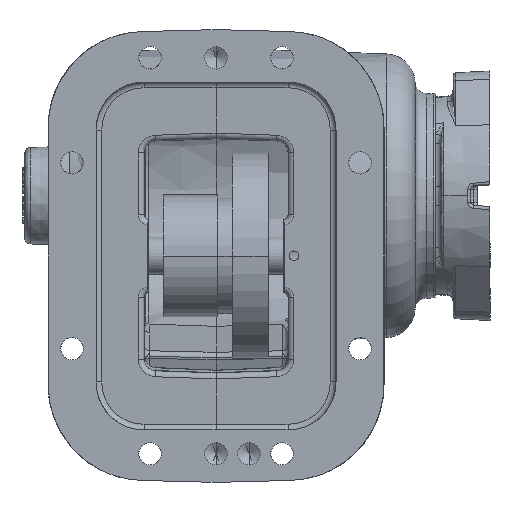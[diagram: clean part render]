
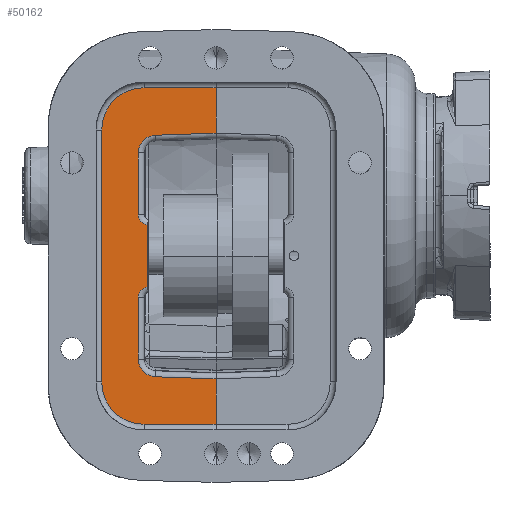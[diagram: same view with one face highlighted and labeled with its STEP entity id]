
A CAD part, front view. The second image highlights one B-rep face of the part: STEP entity #50162.
In plain terms, the highlighted planar face has unit normal (0, -1, 0).
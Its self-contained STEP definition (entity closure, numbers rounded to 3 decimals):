
#12150 = AXIS2_PLACEMENT_3D ( 'NONE', #93692, #93693, #93694 ) ;
#12158 = AXIS2_PLACEMENT_3D ( 'NONE', #93724, #93725, #93726 ) ;
#12171 = AXIS2_PLACEMENT_3D ( 'NONE', #93767, #93768, #93769 ) ;
#12178 = AXIS2_PLACEMENT_3D ( 'NONE', #93800, #93801, #93802 ) ;
#12203 = AXIS2_PLACEMENT_3D ( 'NONE', #96707, #96708, #96709 ) ;
#12209 = AXIS2_PLACEMENT_3D ( 'NONE', #96747, #96748, #96749 ) ;
#14907 = CARTESIAN_POINT ( 'NONE',  ( -88.773, -151.106, 55.209 ) ) ;
#14922 = PLANE ( 'NONE',  #58737 ) ;
#14926 = DIRECTION ( 'NONE',  ( 0., 1., 0. ) ) ;
#14927 = DIRECTION ( 'NONE',  ( 0., 0., 1. ) ) ;
#20942 = FACE_OUTER_BOUND ( 'NONE', #29150, .T. ) ;
#29150 = EDGE_LOOP ( 'NONE', ( #82029, #82031, #82033, #82035, #82038, #82040, #82042, #82043, #82044, #82045, #82048, #82049, #82051, #82053, #82054, #82055 ) ) ;
#38437 = LINE ( 'NONE', #103464, #38440 ) ;
#38439 = LINE ( 'NONE', #103467, #38442 ) ;
#38440 = VECTOR ( 'NONE', #103466, 1000. ) ;
#38442 = VECTOR ( 'NONE', #103470, 1000. ) ;
#50162 = ADVANCED_FACE ( 'NONE', ( #20942 ), #14922, .F. ) ;
#55931 = VERTEX_POINT ( 'NONE', #65696 ) ;
#55939 = VERTEX_POINT ( 'NONE', #65709 ) ;
#55946 = VERTEX_POINT ( 'NONE', #65722 ) ;
#55952 = VERTEX_POINT ( 'NONE', #65725 ) ;
#55956 = VERTEX_POINT ( 'NONE', #65736 ) ;
#55958 = VERTEX_POINT ( 'NONE', #65739 ) ;
#56003 = VERTEX_POINT ( 'NONE', #66003 ) ;
#56018 = VERTEX_POINT ( 'NONE', #63815 ) ;
#56020 = VERTEX_POINT ( 'NONE', #63821 ) ;
#56025 = VERTEX_POINT ( 'NONE', #64118 ) ;
#56029 = VERTEX_POINT ( 'NONE', #64124 ) ;
#56035 = VERTEX_POINT ( 'NONE', #64236 ) ;
#56050 = VERTEX_POINT ( 'NONE', #64429 ) ;
#56051 = VERTEX_POINT ( 'NONE', #64432 ) ;
#56053 = VERTEX_POINT ( 'NONE', #64434 ) ;
#56057 = VERTEX_POINT ( 'NONE', #64437 ) ;
#58737 = AXIS2_PLACEMENT_3D ( 'NONE', #14907, #14926, #14927 ) ;
#58890 = LINE ( 'NONE', #93674, #58894 ) ;
#58894 = VECTOR ( 'NONE', #93671, 1000. ) ;
#58898 = CIRCLE ( 'NONE', #12150, 9.398 ) ;
#58904 = LINE ( 'NONE', #93705, #58910 ) ;
#58910 = VECTOR ( 'NONE', #93703, 1000. ) ;
#58915 = CIRCLE ( 'NONE', #12158, 6.096 ) ;
#58923 = LINE ( 'NONE', #93741, #58926 ) ;
#58926 = VECTOR ( 'NONE', #93737, 1000. ) ;
#58930 = CIRCLE ( 'NONE', #12171, 6.096 ) ;
#58936 = LINE ( 'NONE', #93779, #58942 ) ;
#58942 = VECTOR ( 'NONE', #93776, 1000. ) ;
#58946 = CIRCLE ( 'NONE', #12178, 9.398 ) ;
#58951 = LINE ( 'NONE', #93805, #58958 ) ;
#58958 = VECTOR ( 'NONE', #93819, 1000. ) ;
#59000 = LINE ( 'NONE', #96710, #59005 ) ;
#59001 = CIRCLE ( 'NONE', #12203, 22.352 ) ;
#59005 = VECTOR ( 'NONE', #96706, 1000. ) ;
#59008 = LINE ( 'NONE', #96721, #59012 ) ;
#59012 = VECTOR ( 'NONE', #96727, 1000. ) ;
#59018 = CIRCLE ( 'NONE', #12209, 22.352 ) ;
#59024 = LINE ( 'NONE', #96763, #59028 ) ;
#59028 = VECTOR ( 'NONE', #96771, 1000. ) ;
#63815 = CARTESIAN_POINT ( 'NONE',  ( -31.951, -151.106, 1.64 ) ) ;
#63821 = CARTESIAN_POINT ( 'NONE',  ( -41.021, -151.106, -40.104 ) ) ;
#64118 = CARTESIAN_POINT ( 'NONE',  ( -41.021, -151.106, -7.753 ) ) ;
#64124 = CARTESIAN_POINT ( 'NONE',  ( -36.195, -151.106, -46.066 ) ) ;
#64236 = CARTESIAN_POINT ( 'NONE',  ( -36.195, -151.106, -78.466 ) ) ;
#64429 = CARTESIAN_POINT ( 'NONE',  ( -41.021, -151.106, -84.428 ) ) ;
#64432 = CARTESIAN_POINT ( 'NONE',  ( -41.021, -151.106, -116.779 ) ) ;
#64434 = CARTESIAN_POINT ( 'NONE',  ( 0.127, -151.106, -127.292 ) ) ;
#64437 = CARTESIAN_POINT ( 'NONE',  ( -31.951, -151.106, -126.172 ) ) ;
#65696 = CARTESIAN_POINT ( 'NONE',  ( 0.127, -151.106, 26.761 ) ) ;
#65709 = CARTESIAN_POINT ( 'NONE',  ( -37.973, -151.106, 26.761 ) ) ;
#65722 = CARTESIAN_POINT ( 'NONE',  ( -60.325, -151.106, 4.409 ) ) ;
#65725 = CARTESIAN_POINT ( 'NONE',  ( -37.973, -151.106, -151.293 ) ) ;
#65736 = CARTESIAN_POINT ( 'NONE',  ( 0.127, -151.106, -151.293 ) ) ;
#65739 = CARTESIAN_POINT ( 'NONE',  ( -60.325, -151.106, -128.941 ) ) ;
#66003 = CARTESIAN_POINT ( 'NONE',  ( 0.127, -151.106, 2.76 ) ) ;
#82029 = ORIENTED_EDGE ( 'NONE', *, *, #105737, .F. ) ;
#82031 = ORIENTED_EDGE ( 'NONE', *, *, #87829, .T. ) ;
#82033 = ORIENTED_EDGE ( 'NONE', *, *, #87835, .T. ) ;
#82035 = ORIENTED_EDGE ( 'NONE', *, *, #87841, .T. ) ;
#82038 = ORIENTED_EDGE ( 'NONE', *, *, #87847, .T. ) ;
#82040 = ORIENTED_EDGE ( 'NONE', *, *, #87854, .T. ) ;
#82042 = ORIENTED_EDGE ( 'NONE', *, *, #87862, .T. ) ;
#82043 = ORIENTED_EDGE ( 'NONE', *, *, #87867, .T. ) ;
#82044 = ORIENTED_EDGE ( 'NONE', *, *, #87873, .T. ) ;
#82045 = ORIENTED_EDGE ( 'NONE', *, *, #87879, .T. ) ;
#82048 = ORIENTED_EDGE ( 'NONE', *, *, #105738, .F. ) ;
#82049 = ORIENTED_EDGE ( 'NONE', *, *, #87960, .T. ) ;
#82051 = ORIENTED_EDGE ( 'NONE', *, *, #87954, .T. ) ;
#82053 = ORIENTED_EDGE ( 'NONE', *, *, #87948, .T. ) ;
#82054 = ORIENTED_EDGE ( 'NONE', *, *, #87942, .T. ) ;
#82055 = ORIENTED_EDGE ( 'NONE', *, *, #87944, .T. ) ;
#87829 = EDGE_CURVE ( 'NONE', #56053, #56057, #58890, .T. ) ;
#87835 = EDGE_CURVE ( 'NONE', #56057, #56051, #58898, .T. ) ;
#87841 = EDGE_CURVE ( 'NONE', #56051, #56050, #58904, .T. ) ;
#87847 = EDGE_CURVE ( 'NONE', #56050, #56035, #58915, .T. ) ;
#87854 = EDGE_CURVE ( 'NONE', #56035, #56029, #58923, .T. ) ;
#87862 = EDGE_CURVE ( 'NONE', #56029, #56020, #58930, .T. ) ;
#87867 = EDGE_CURVE ( 'NONE', #56020, #56025, #58936, .T. ) ;
#87873 = EDGE_CURVE ( 'NONE', #56025, #56018, #58946, .T. ) ;
#87879 = EDGE_CURVE ( 'NONE', #56018, #56003, #58951, .T. ) ;
#87942 = EDGE_CURVE ( 'NONE', #55958, #55952, #59001, .T. ) ;
#87944 = EDGE_CURVE ( 'NONE', #55952, #55956, #59000, .T. ) ;
#87948 = EDGE_CURVE ( 'NONE', #55946, #55958, #59008, .T. ) ;
#87954 = EDGE_CURVE ( 'NONE', #55939, #55946, #59018, .T. ) ;
#87960 = EDGE_CURVE ( 'NONE', #55931, #55939, #59024, .T. ) ;
#93671 = DIRECTION ( 'NONE',  ( -0.999, 0., 0.035 ) ) ;
#93674 = CARTESIAN_POINT ( 'NONE',  ( -31.951, -151.106, -126.172 ) ) ;
#93692 = CARTESIAN_POINT ( 'NONE',  ( -31.623, -151.106, -116.779 ) ) ;
#93693 = DIRECTION ( 'NONE',  ( 0., 1., 0. ) ) ;
#93694 = DIRECTION ( 'NONE',  ( 0., 0., 1. ) ) ;
#93703 = DIRECTION ( 'NONE',  ( 0., 0., 1. ) ) ;
#93705 = CARTESIAN_POINT ( 'NONE',  ( -41.021, -151.106, -84.428 ) ) ;
#93724 = CARTESIAN_POINT ( 'NONE',  ( -34.925, -151.106, -84.428 ) ) ;
#93725 = DIRECTION ( 'NONE',  ( 0., 1., 0. ) ) ;
#93726 = DIRECTION ( 'NONE',  ( 0., 0., 1. ) ) ;
#93737 = DIRECTION ( 'NONE',  ( 0., 0., 1. ) ) ;
#93741 = CARTESIAN_POINT ( 'NONE',  ( -36.195, -151.106, -46.066 ) ) ;
#93767 = CARTESIAN_POINT ( 'NONE',  ( -34.925, -151.106, -40.104 ) ) ;
#93768 = DIRECTION ( 'NONE',  ( 0., 1., 0. ) ) ;
#93769 = DIRECTION ( 'NONE',  ( 0., 0., 1. ) ) ;
#93776 = DIRECTION ( 'NONE',  ( 0., 0., 1. ) ) ;
#93779 = CARTESIAN_POINT ( 'NONE',  ( -41.021, -151.106, -7.753 ) ) ;
#93800 = CARTESIAN_POINT ( 'NONE',  ( -31.623, -151.106, -7.753 ) ) ;
#93801 = DIRECTION ( 'NONE',  ( 0., 1., 0. ) ) ;
#93802 = DIRECTION ( 'NONE',  ( 0., 0., 1. ) ) ;
#93805 = CARTESIAN_POINT ( 'NONE',  ( 0.021, -151.106, 2.756 ) ) ;
#93819 = DIRECTION ( 'NONE',  ( 0.999, 0., 0.035 ) ) ;
#96706 = DIRECTION ( 'NONE',  ( 1., 0., 0. ) ) ;
#96707 = CARTESIAN_POINT ( 'NONE',  ( -37.973, -151.106, -128.941 ) ) ;
#96708 = DIRECTION ( 'NONE',  ( 0., -1., 0. ) ) ;
#96709 = DIRECTION ( 'NONE',  ( 0., 0., 1. ) ) ;
#96710 = CARTESIAN_POINT ( 'NONE',  ( 0.127, -151.106, -151.293 ) ) ;
#96721 = CARTESIAN_POINT ( 'NONE',  ( -60.325, -151.106, -128.941 ) ) ;
#96727 = DIRECTION ( 'NONE',  ( 0., 0., -1. ) ) ;
#96747 = CARTESIAN_POINT ( 'NONE',  ( -37.973, -151.106, 4.409 ) ) ;
#96748 = DIRECTION ( 'NONE',  ( 0., -1., 0. ) ) ;
#96749 = DIRECTION ( 'NONE',  ( 0., 0., 1. ) ) ;
#96763 = CARTESIAN_POINT ( 'NONE',  ( -37.973, -151.106, 26.761 ) ) ;
#96771 = DIRECTION ( 'NONE',  ( -1., 0., 0. ) ) ;
#103464 = CARTESIAN_POINT ( 'NONE',  ( 0.127, -151.106, 55.209 ) ) ;
#103466 = DIRECTION ( 'NONE',  ( 0., 0., -1. ) ) ;
#103467 = CARTESIAN_POINT ( 'NONE',  ( 0.127, -151.106, 55.209 ) ) ;
#103470 = DIRECTION ( 'NONE',  ( 0., 0., -1. ) ) ;
#105737 = EDGE_CURVE ( 'NONE', #56053, #55956, #38437, .T. ) ;
#105738 = EDGE_CURVE ( 'NONE', #55931, #56003, #38439, .T. ) ;
